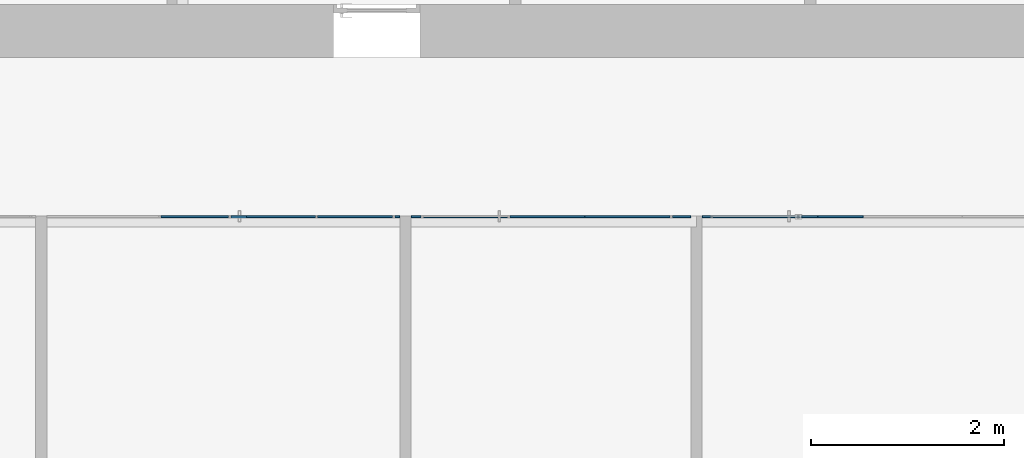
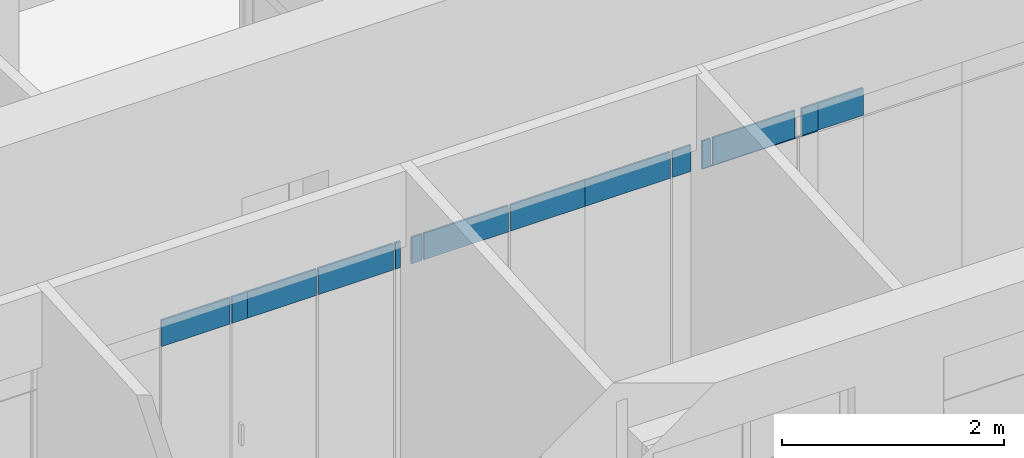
# One storey, part 20 of 46: 17 plates, 3 elements without a shape of their own.
"""IFC2X3 building model written with IfcOpenShell, lengths in millimetres."""

from ifc_helpers import new_model, entity, si_unit, converted_unit, derived_unit, direction, frame, frame_2d, origin, origin_2d_with_axis, place, context, subcontext, project, spatial, rectangle, extrude, source, transform, mapped, material, layer, layer_set, layer_usage, type_object, type_shapes, element, aggregate, save


model = new_model("IFC2X3")

# Units and contexts
model_context = context("Model", 3, precision=0.01, world=origin(), true_north=direction((6.12303176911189e-17, 1.0)))
body_context = subcontext(model_context, "Body", "Model", "MODEL_VIEW")
ifc_project = project(units=[si_unit("LENGTHUNIT", "METRE", prefix="MILLI"), si_unit("AREAUNIT", "SQUARE_METRE"), si_unit("VOLUMEUNIT", "CUBIC_METRE"), converted_unit("PLANEANGLEUNIT", "DEGREE", entity("IfcRatioMeasure", 0.0174532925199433), si_unit("PLANEANGLEUNIT", "RADIAN"), dimensions=[0, 0, 0, 0, 0, 0, 0]), si_unit("MASSUNIT", "GRAM", prefix="KILO"), derived_unit("MASSDENSITYUNIT", [(si_unit("MASSUNIT", "GRAM", prefix="KILO"), 1), (si_unit("LENGTHUNIT", "METRE"), -3)]), si_unit("TIMEUNIT", "SECOND"), si_unit("FREQUENCYUNIT", "HERTZ"), si_unit("THERMODYNAMICTEMPERATUREUNIT", "DEGREE_CELSIUS"), derived_unit("THERMALTRANSMITTANCEUNIT", [(si_unit("MASSUNIT", "GRAM", prefix="KILO"), 1), (si_unit("THERMODYNAMICTEMPERATUREUNIT", "KELVIN"), -1), (si_unit("TIMEUNIT", "SECOND"), -3)]), derived_unit("VOLUMETRICFLOWRATEUNIT", [(si_unit("LENGTHUNIT", "METRE"), 3), (si_unit("TIMEUNIT", "SECOND"), -1)]), si_unit("ELECTRICCURRENTUNIT", "AMPERE"), si_unit("ELECTRICVOLTAGEUNIT", "VOLT"), si_unit("POWERUNIT", "WATT"), si_unit("FORCEUNIT", "NEWTON", prefix="KILO"), si_unit("ILLUMINANCEUNIT", "LUX"), si_unit("LUMINOUSFLUXUNIT", "LUMEN"), si_unit("LUMINOUSINTENSITYUNIT", "CANDELA"), derived_unit("USERDEFINED", [(si_unit("MASSUNIT", "GRAM", prefix="KILO"), -1), (si_unit("LENGTHUNIT", "METRE"), -2), (si_unit("TIMEUNIT", "SECOND"), 3), (si_unit("LUMINOUSFLUXUNIT", "LUMEN"), 1)]), derived_unit("LINEARVELOCITYUNIT", [(si_unit("LENGTHUNIT", "METRE"), 1), (si_unit("TIMEUNIT", "SECOND"), -1)]), si_unit("PRESSUREUNIT", "PASCAL"), derived_unit("USERDEFINED", [(si_unit("LENGTHUNIT", "METRE"), -2), (si_unit("MASSUNIT", "GRAM", prefix="KILO"), 1), (si_unit("TIMEUNIT", "SECOND"), -2)])], contexts=[model_context])

# Site, building, storey
site_placement = place(None, frame((-151.875543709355, 2715.0, 0.0)))
site = spatial("IfcSite", under=ifc_project, at=site_placement, Name="Surface", CompositionType="ELEMENT")
building_placement = place(site_placement, origin())
building = spatial("IfcBuilding", under=site, at=building_placement, CompositionType="ELEMENT")
storey_placement = place(building_placement, frame((0.0, 0.0, 10060.0)))
storey = spatial("IfcBuildingStorey", under=building, at=storey_placement, Name="4 korrus", CompositionType="ELEMENT", Elevation=10060.0000000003)

# Curtain wall, plate
curtain_wall_type_1 = type_object("IfcCurtainWallType", Name="Curtain Wall:Klaassein KLS-26", PredefinedType="NOTDEFINED")
curtain_wall_1_placement = place(storey_placement, frame((0.0, 0.0, -10060.0)))
curtain_wall_1 = element("IfcCurtainWall", 1, at=curtain_wall_1_placement, inside=storey, type_object=curtain_wall_type_1, Name="Curtain Wall:Klaassein KLS-26", ObjectType="Curtain Wall:Klaassein KLS-26")
ifc_material = material(Name="<Unnamed>")
ifc_layer = layer(ifc_material, 20.0)
ifc_layer_set = layer_set([ifc_layer], Name="Curtain Wall:Klaassein KLS-01")
ifc_layer_usage_1 = layer_usage(ifc_layer_set, "AXIS3", "POSITIVE", 0.0)
plate_type_1 = type_object("IfcPlateType", Name="Glazed", PredefinedType="CURTAIN_PANEL", material=ifc_layer_set)
shared_shape_1 = source(origin(), body_context, "Body", "SweptSolid", [
    extrude(rectangle(XDim=20.0, YDim=880.000000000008, at=origin_2d_with_axis()), frame((0.0, 0.0, 0.0), z_axis=(0.0, 0.0, 1.0), x_axis=(0.0, 1.0, 0.0)), (0.0, 0.0, 1.0), 290.0),
])
type_shapes(plate_type_1, [shared_shape_1])
plate_1_placement = place(curtain_wall_1_placement, frame((13463.5647267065, 4355.1956268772, 12170.0)))
plate_1 = element("IfcPlate", 2, at=plate_1_placement, type_object=plate_type_1, material=ifc_layer_usage_1, Name="System Panel:Glazed", ObjectType="Glazed", context=body_context, shape_type="MappedRepresentation", body=[
    mapped(shared_shape_1, transform((0.0, 0.0, 0.0), scale=1.0)),
])

# Curtain wall, plates
curtain_wall_type_2 = type_object("IfcCurtainWallType", Name="Curtain Wall:Klaassein KLS-27", PredefinedType="NOTDEFINED")
curtain_wall_2_placement = place(storey_placement, frame((0.0, 0.0, -10060.0)))
curtain_wall_2 = element("IfcCurtainWall", 3, at=curtain_wall_2_placement, inside=storey, type_object=curtain_wall_type_2, Name="Curtain Wall:Klaassein KLS-27", ObjectType="Curtain Wall:Klaassein KLS-27")
ifc_layer_usage_2 = layer_usage(ifc_layer_set, "AXIS3", "POSITIVE", 0.0)
plate_type_2 = type_object("IfcPlateType", Name="Glazed", PredefinedType="CURTAIN_PANEL", material=ifc_layer_set)
shared_shape_2 = source(origin(), body_context, "Body", "SweptSolid", [
    extrude(rectangle(XDim=20.0, YDim=900.000000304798, at=origin_2d_with_axis()), frame((0.0, 0.0, 0.0), z_axis=(0.0, 0.0, 1.0), x_axis=(0.0, 1.0, 0.0)), (0.0, 0.0, 1.0), 9.99999999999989),
])
type_shapes(plate_type_2, [shared_shape_2])
plate_2_placement = place(curtain_wall_2_placement, frame((16469.5647264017, 4355.04493399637, 12150.0)))
plate_2 = element("IfcPlate", 4, at=plate_2_placement, type_object=plate_type_2, material=ifc_layer_usage_2, Name="System Panel:Glazed", ObjectType="Glazed", context=body_context, shape_type="MappedRepresentation", body=[
    mapped(shared_shape_2, transform((0.0, 0.0, 0.0), scale=1.0)),
])
ifc_layer_usage_3 = layer_usage(ifc_layer_set, "AXIS3", "POSITIVE", 0.0)
plate_type_3 = type_object("IfcPlateType", Name="Glazed", PredefinedType="CURTAIN_PANEL", material=ifc_layer_set)
shared_shape_3 = source(origin(), body_context, "Body", "SweptSolid", [
    extrude(rectangle(XDim=20.0, YDim=99.9999999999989, at=origin_2d_with_axis()), frame((0.0, 0.0, 0.0), z_axis=(0.0, 0.0, 1.0), x_axis=(0.0, 1.0, 0.0)), (0.0, 0.0, 1.0), 9.99999999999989),
])
type_shapes(plate_type_3, [shared_shape_3])
plate_3_placement = place(curtain_wall_2_placement, frame((15969.5647264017, 4355.04493399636, 12150.0)))
plate_3 = element("IfcPlate", 5, at=plate_3_placement, type_object=plate_type_3, material=ifc_layer_usage_3, Name="System Panel:Glazed", ObjectType="Glazed", context=body_context, shape_type="MappedRepresentation", body=[
    mapped(shared_shape_3, transform((0.0, 0.0, 0.0), scale=1.0)),
])
ifc_layer_usage_4 = layer_usage(ifc_layer_set, "AXIS3", "POSITIVE", 0.0)
plate_type_4 = type_object("IfcPlateType", Name="Glazed", PredefinedType="CURTAIN_PANEL", material=ifc_layer_set)
shared_shape_4 = source(origin(), body_context, "Body", "SweptSolid", [
    extrude(rectangle(XDim=20.0, YDim=89.999999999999, at=origin_2d_with_axis()), frame((0.0, 0.0, 0.0), z_axis=(0.0, 0.0, 1.0), x_axis=(0.0, 1.0, 0.0)), (0.0, 0.0, 1.0), 299.999999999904),
])
type_shapes(plate_type_4, [shared_shape_4])
plate_4_placement = place(curtain_wall_2_placement, frame((15964.5647264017, 4355.04493399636, 12160.0)))
plate_4 = element("IfcPlate", 6, at=plate_4_placement, type_object=plate_type_4, material=ifc_layer_usage_4, Name="System Panel:Glazed", ObjectType="Glazed", context=body_context, shape_type="MappedRepresentation", body=[
    mapped(shared_shape_4, transform((0.0, 0.0, 0.0), scale=1.0)),
])
ifc_layer_usage_5 = layer_usage(ifc_layer_set, "AXIS3", "POSITIVE", 0.0)
plate_type_5 = type_object("IfcPlateType", Name="Glazed", PredefinedType="CURTAIN_PANEL", material=ifc_layer_set)
shared_shape_5 = source(origin(), body_context, "Body", "SweptSolid", [
    extrude(rectangle(XDim=20.0, YDim=201.283442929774, at=origin_2d_with_axis()), frame((0.0, 0.0, 0.0), z_axis=(0.0, 0.0, 1.0), x_axis=(0.0, 1.0, 0.0)), (0.0, 0.0, 1.0), 9.99999999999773),
])
type_shapes(plate_type_5, [shared_shape_5])
plate_5_placement = place(curtain_wall_2_placement, frame((17020.2064478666, 4355.04493399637, 12150.0)))
plate_5 = element("IfcPlate", 7, at=plate_5_placement, type_object=plate_type_5, material=ifc_layer_usage_5, Name="System Panel:Glazed", ObjectType="Glazed", context=body_context, shape_type="MappedRepresentation", body=[
    mapped(shared_shape_5, transform((0.0, 0.0, 0.0), scale=1.0)),
])
ifc_layer_usage_6 = layer_usage(ifc_layer_set, "AXIS3", "POSITIVE", 0.0)
plate_type_6 = type_object("IfcPlateType", Name="Glazed", PredefinedType="CURTAIN_PANEL", material=ifc_layer_set)
shared_shape_6 = source(origin(), body_context, "Body", "SweptSolid", [
    extrude(rectangle(XDim=20.0, YDim=854.999999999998, at=origin_2d_with_axis()), frame((0.0, 0.0, 0.0), z_axis=(0.0, 0.0, 1.0), x_axis=(0.0, 1.0, 0.0)), (0.0, 0.0, 1.0), 299.999999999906),
])
type_shapes(plate_type_6, [shared_shape_6])
plate_6_placement = place(curtain_wall_2_placement, frame((16457.0647264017, 4355.04493399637, 12160.0)))
plate_6 = element("IfcPlate", 8, at=plate_6_placement, type_object=plate_type_6, material=ifc_layer_usage_6, Name="System Panel:Glazed", ObjectType="Glazed", context=body_context, shape_type="MappedRepresentation", body=[
    mapped(shared_shape_6, transform((0.0, 0.0, 0.0), scale=1.0)),
])
ifc_layer_usage_7 = layer_usage(ifc_layer_set, "AXIS3", "POSITIVE", 0.0)
plate_type_7 = type_object("IfcPlateType", Name="Glazed", PredefinedType="CURTAIN_PANEL", material=ifc_layer_set)
shared_shape_7 = source(origin(), body_context, "Body", "SweptSolid", [
    extrude(rectangle(XDim=20.0, YDim=166.283442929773, at=origin_2d_with_axis()), frame((0.0, 0.0, 0.0), z_axis=(0.0, 0.0, 1.0), x_axis=(0.0, 1.0, 0.0)), (0.0, 0.0, 1.0), 299.999999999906),
])
type_shapes(plate_type_7, [shared_shape_7])
plate_7_placement = place(curtain_wall_2_placement, frame((17037.7064478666, 4355.04493399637, 12160.0)))
plate_7 = element("IfcPlate", 9, at=plate_7_placement, type_object=plate_type_7, material=ifc_layer_usage_7, Name="System Panel:Glazed", ObjectType="Glazed", context=body_context, shape_type="MappedRepresentation", body=[
    mapped(shared_shape_7, transform((0.0, 0.0, 0.0), scale=1.0)),
])
ifc_layer_usage_8 = layer_usage(ifc_layer_set, "AXIS3", "POSITIVE", 0.0)
plate_type_8 = type_object("IfcPlateType", Name="Glazed", PredefinedType="CURTAIN_PANEL", material=ifc_layer_set)
shared_shape_8 = source(origin(), body_context, "Body", "SweptSolid", [
    extrude(rectangle(XDim=20.0, YDim=473.855382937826, at=origin_2d_with_axis()), frame((0.0, 0.0, 0.0), z_axis=(0.0, 0.0, 1.0), x_axis=(0.0, 1.0, 0.0)), (0.0, 0.0, 1.0), 299.999999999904),
])
type_shapes(plate_type_8, [shared_shape_8])
plate_8_placement = place(curtain_wall_2_placement, frame((17357.7758609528, 4355.04493399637, 12160.0)))
plate_8 = element("IfcPlate", 10, at=plate_8_placement, type_object=plate_type_8, material=ifc_layer_usage_8, Name="System Panel:Glazed", ObjectType="Glazed", context=body_context, shape_type="MappedRepresentation", body=[
    mapped(shared_shape_8, transform((0.0, 0.0, 0.0), scale=1.0)),
])
aggregate(curtain_wall_2, [plate_3, plate_2, plate_5, plate_4, plate_6, plate_7, plate_8])

# Plate
ifc_layer_usage_9 = layer_usage(ifc_layer_set, "AXIS3", "POSITIVE", 0.0)
plate_type_9 = type_object("IfcPlateType", Name="Glazed", PredefinedType="CURTAIN_PANEL", material=ifc_layer_set)
shared_shape_9 = source(origin(), body_context, "Body", "SweptSolid", [
    extrude(rectangle(XDim=20.0, YDim=104.000000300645, at=origin_2d_with_axis()), frame((0.0, 0.0, 0.0), z_axis=(0.0, 0.0, 1.0), x_axis=(0.0, 1.0, 0.0)), (0.0, 0.0, 1.0), 289.999999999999),
])
type_shapes(plate_type_9, [shared_shape_9])
plate_9_placement = place(curtain_wall_1_placement, frame((12951.5647265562, 4355.1956268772, 12170.0)))
plate_9 = element("IfcPlate", 11, at=plate_9_placement, type_object=plate_type_9, material=ifc_layer_usage_9, Name="System Panel:Glazed", ObjectType="Glazed", context=body_context, shape_type="MappedRepresentation", body=[
    mapped(shared_shape_9, transform((0.0, 0.0, 0.0), scale=1.0)),
])

ifc_layer_usage_10 = layer_usage(ifc_layer_set, "AXIS3", "POSITIVE", 0.0)
plate_type_10 = type_object("IfcPlateType", Name="Glazed", PredefinedType="CURTAIN_PANEL", material=ifc_layer_set)
shared_shape_10 = source(origin(), body_context, "Body", "SweptSolid", [
    extrude(rectangle(XDim=20.0, YDim=775.000000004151, at=origin_2d_with_axis()), frame((0.0, 0.0, 0.0), z_axis=(0.0, 0.0, 1.0), x_axis=(0.0, 1.0, 0.0)), (0.0, 0.0, 1.0), 289.999999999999),
])
type_shapes(plate_type_10, [shared_shape_10])
plate_10_placement = place(curtain_wall_1_placement, frame((14312.0647267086, 4355.1956268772, 12170.0)))
plate_10 = element("IfcPlate", 12, at=plate_10_placement, type_object=plate_type_10, material=ifc_layer_usage_10, Name="System Panel:Glazed", ObjectType="Glazed", context=body_context, shape_type="MappedRepresentation", body=[
    mapped(shared_shape_10, transform((0.0, 0.0, 0.0), scale=1.0)),
])

ifc_layer_usage_11 = layer_usage(ifc_layer_set, "AXIS3", "POSITIVE", 0.0)
plate_type_11 = type_object("IfcPlateType", Name="Glazed", PredefinedType="CURTAIN_PANEL", material=ifc_layer_set)
shared_shape_11 = source(origin(), body_context, "Body", "SweptSolid", [
    extrude(rectangle(XDim=20.0, YDim=890.000000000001, at=origin_2d_with_axis()), frame((0.0, 0.0, 0.0), z_axis=(0.0, 0.0, 1.0), x_axis=(0.0, 1.0, 0.0)), (0.0, 0.0, 1.0), 289.999999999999),
])
type_shapes(plate_type_11, [shared_shape_11])
plate_11_placement = place(curtain_wall_1_placement, frame((15144.5647267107, 4355.19562687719, 12170.0)))
plate_11 = element("IfcPlate", 13, at=plate_11_placement, type_object=plate_type_11, material=ifc_layer_usage_11, Name="System Panel:Glazed", ObjectType="Glazed", context=body_context, shape_type="MappedRepresentation", body=[
    mapped(shared_shape_11, transform((0.0, 0.0, 0.0), scale=1.0)),
])

ifc_layer_usage_12 = layer_usage(ifc_layer_set, "AXIS3", "POSITIVE", 0.0)
plate_type_12 = type_object("IfcPlateType", Name="Glazed", PredefinedType="CURTAIN_PANEL", material=ifc_layer_set)
shared_shape_12 = source(origin(), body_context, "Body", "SweptSolid", [
    extrude(rectangle(XDim=20.0, YDim=193.999999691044, at=origin_2d_with_axis()), frame((0.0, 0.0, 0.0), z_axis=(0.0, 0.0, 1.0), x_axis=(0.0, 1.0, 0.0)), (0.0, 0.0, 1.0), 289.999999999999),
])
type_shapes(plate_type_12, [shared_shape_12])
plate_12_placement = place(curtain_wall_1_placement, frame((15706.5647265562, 4355.19562687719, 12170.0)))
plate_12 = element("IfcPlate", 14, at=plate_12_placement, type_object=plate_type_12, material=ifc_layer_usage_12, Name="System Panel:Glazed", ObjectType="Glazed", context=body_context, shape_type="MappedRepresentation", body=[
    mapped(shared_shape_12, transform((0.0, 0.0, 0.0), scale=1.0)),
])

aggregate(curtain_wall_1, [plate_9, plate_1, plate_10, plate_11, plate_12])

# Curtain wall, plates
curtain_wall_type_3 = type_object("IfcCurtainWallType", Name="Curtain Wall:Klaassein KLS-25", PredefinedType="NOTDEFINED")
curtain_wall_3_placement = place(storey_placement, frame((0.0, 0.0, -10060.0)))
curtain_wall_3 = element("IfcCurtainWall", 15, at=curtain_wall_3_placement, inside=storey, type_object=curtain_wall_type_3, Name="Curtain Wall:Klaassein KLS-25", ObjectType="Curtain Wall:Klaassein KLS-25")
ifc_layer_usage_13 = layer_usage(ifc_layer_set, "AXIS3", "POSITIVE", 0.0)
plate_type_13 = type_object("IfcPlateType", Name="Glazed", PredefinedType="CURTAIN_PANEL", material=ifc_layer_set)
shared_shape_13 = source(origin(), body_context, "Body", "SweptSolid", [
    extrude(rectangle(XDim=20.0, YDim=708.689180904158, at=origin_2d_with_axis()), frame((0.0, 0.0, 0.0), z_axis=(0.0, 0.0, 1.0), x_axis=(0.0, 1.0, 0.0)), (0.0, 0.0, 1.0), 289.999999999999),
])
type_shapes(plate_type_13, [shared_shape_13])
plate_13_placement = place(curtain_wall_3_placement, frame((10653.2201362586, 4355.19562687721, 12170.0)))
plate_13 = element("IfcPlate", 16, at=plate_13_placement, type_object=plate_type_13, material=ifc_layer_usage_13, Name="System Panel:Glazed", ObjectType="Glazed", context=body_context, shape_type="MappedRepresentation", body=[
    mapped(shared_shape_13, transform((0.0, 0.0, 0.0), scale=1.0)),
])
ifc_layer_usage_14 = layer_usage(ifc_layer_set, "AXIS3", "POSITIVE", 0.0)
plate_type_14 = type_object("IfcPlateType", Name="Glazed", PredefinedType="CURTAIN_PANEL", material=ifc_layer_set)
shared_shape_14 = source(origin(), body_context, "Body", "SweptSolid", [
    extrude(rectangle(XDim=289.999999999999, YDim=161.310819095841, at=frame_2d((0.0, -26.5518031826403), x_axis=(1.0, 0.0))), frame((26.5518031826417, -10.0, 145.0), z_axis=(0.0, 1.0, 0.0), x_axis=(0.0, 0.0, 1.0)), (0.0, 0.0, 1.0), 20.0),
])
type_shapes(plate_type_14, [shared_shape_14])
plate_14_placement = place(curtain_wall_3_placement, frame((11108.2201362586, 4355.19562687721, 12170.0)))
plate_14 = element("IfcPlate", 17, at=plate_14_placement, type_object=plate_type_14, material=ifc_layer_usage_14, Name="System Panel:Glazed", ObjectType="Glazed", context=body_context, shape_type="MappedRepresentation", body=[
    mapped(shared_shape_14, transform((0.0, 0.0, 0.0), scale=1.0)),
])
ifc_layer_usage_15 = layer_usage(ifc_layer_set, "AXIS3", "POSITIVE", 0.0)
plate_type_15 = type_object("IfcPlateType", Name="Glazed", PredefinedType="CURTAIN_PANEL", material=ifc_layer_set)
shared_shape_15 = source(origin(), body_context, "Body", "SweptSolid", [
    extrude(rectangle(XDim=20.0, YDim=718.689180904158, at=origin_2d_with_axis()), frame((0.0, 0.0, 0.0), z_axis=(0.0, 0.0, 1.0), x_axis=(0.0, 1.0, 0.0)), (0.0, 0.0, 1.0), 289.999999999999),
])
type_shapes(plate_type_15, [shared_shape_15])
plate_15_placement = place(curtain_wall_3_placement, frame((11548.2201362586, 4355.19562687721, 12170.0)))
plate_15 = element("IfcPlate", 18, at=plate_15_placement, type_object=plate_type_15, material=ifc_layer_usage_15, Name="System Panel:Glazed", ObjectType="Glazed", context=body_context, shape_type="MappedRepresentation", body=[
    mapped(shared_shape_15, transform((0.0, 0.0, 0.0), scale=1.0)),
])
ifc_layer_usage_16 = layer_usage(ifc_layer_set, "AXIS3", "POSITIVE", 0.0)
plate_type_16 = type_object("IfcPlateType", Name="Glazed", PredefinedType="CURTAIN_PANEL", material=ifc_layer_set)
shared_shape_16 = source(origin(), body_context, "Body", "SweptSolid", [
    extrude(rectangle(XDim=20.0, YDim=780.0, at=origin_2d_with_axis()), frame((0.0, 0.0, 0.0), z_axis=(0.0, 0.0, 1.0), x_axis=(0.0, 1.0, 0.0)), (0.0, 0.0, 1.0), 289.999999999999),
])
type_shapes(plate_type_16, [shared_shape_16])
plate_16_placement = place(curtain_wall_3_placement, frame((12317.5647267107, 4355.1956268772, 12170.0)))
plate_16 = element("IfcPlate", 19, at=plate_16_placement, type_object=plate_type_16, material=ifc_layer_usage_16, Name="System Panel:Glazed", ObjectType="Glazed", context=body_context, shape_type="MappedRepresentation", body=[
    mapped(shared_shape_16, transform((0.0, 0.0, 0.0), scale=1.0)),
])
ifc_layer_usage_17 = layer_usage(ifc_layer_set, "AXIS3", "POSITIVE", 0.0)
plate_type_17 = type_object("IfcPlateType", Name="Glazed", PredefinedType="CURTAIN_PANEL", material=ifc_layer_set)
shared_shape_17 = source(origin(), body_context, "Body", "SweptSolid", [
    extrude(rectangle(XDim=20.0, YDim=55.9999996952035, at=origin_2d_with_axis()), frame((0.0, 0.0, 0.0), z_axis=(0.0, 0.0, 1.0), x_axis=(0.0, 1.0, 0.0)), (0.0, 0.0, 1.0), 289.999999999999),
])
type_shapes(plate_type_17, [shared_shape_17])
plate_17_placement = place(curtain_wall_3_placement, frame((12755.5647265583, 4355.1956268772, 12170.0)))
plate_17 = element("IfcPlate", 20, at=plate_17_placement, type_object=plate_type_17, material=ifc_layer_usage_17, Name="System Panel:Glazed", ObjectType="Glazed", context=body_context, shape_type="MappedRepresentation", body=[
    mapped(shared_shape_17, transform((0.0, 0.0, 0.0), scale=1.0)),
])
aggregate(curtain_wall_3, [plate_13, plate_14, plate_15, plate_16, plate_17])

save(model, "model.ifc")
